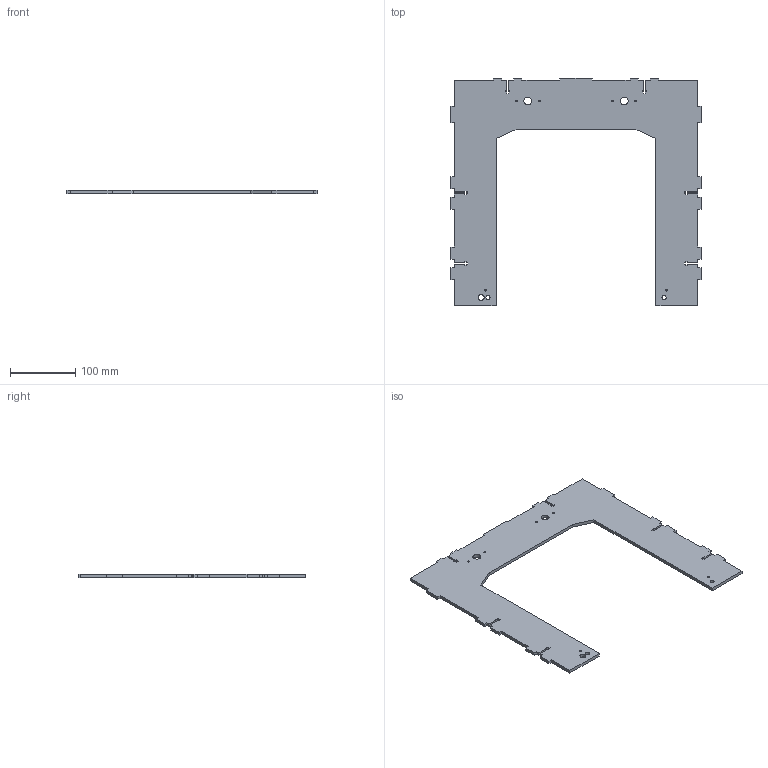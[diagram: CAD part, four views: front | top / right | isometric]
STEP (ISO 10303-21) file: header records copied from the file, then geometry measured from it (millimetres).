
FILE_DESCRIPTION(/* description */ (''),/* implementation_level */ '2;1');
FILE_NAME(/* name */ 'TAPASU~1',/* time_stamp */ '2019-04-01T20:00:35-03:00',/* author */ (''),/* organization */ (''),/* preprocessor_version */ 'ST-DEVELOPER v16.5',/* originating_system */ '',/* authorisation */ '');
FILE_SCHEMA (('AUTOMOTIVE_DESIGN'));
Length unit declared in the file: millimetre
Products named in the file (1): Document
Bounding box: 382 x 348 x 5 mm (x, y, z)
Volume: 317026.9 mm3; surface area: 139603 mm2
Topology: 1 solids, 1 shells, 166 faces, 492 edges, 328 vertices
Faces by surface type: plane 144, bspline 22
Entity records: 5081 total; most frequent: CARTESIAN_POINT 1858, ORIENTED_EDGE 984, EDGE_CURVE 492, B_SPLINE_CURVE_WITH_KNOTS 426, VERTEX_POINT 328, EDGE_LOOP 188, ADVANCED_FACE 166, FACE_OUTER_BOUND 166
